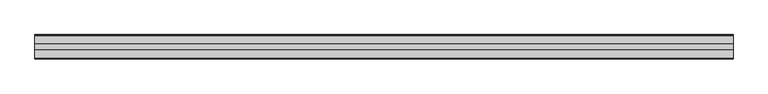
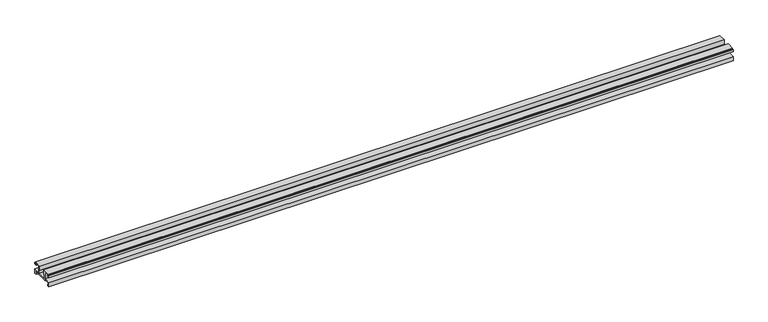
"""IFC4 building model written with IfcOpenShell, lengths in millimetres: proxy geometry, Weiku - Montante - Acoplamento vidro : Weiku - Montante - Acoplamento vidro."""

from ifc_helpers import new_model, si_unit, frame, origin, place, context, project, spatial, polyline, outline, extrude, source, transform, mapped, element, save


def generic_models_8adca15c(model_context):
    return source(origin(), model_context, "Body", "SweptSolid", [
        extrude(outline(polyline([(35.405, 5.1494), (12.495, 5.1494), (12.495, 6.8004), (2.159, 6.8004), (2.159, 2.6094), (4.0216, 2.6094), (4.0216, 0.0), (-0.0014508, 0.0), (-0.0014508, 8.79), (12.954, 8.79), (12.954, 23.3104), (4.3603, 23.3104), (4.3603, 19.204), (0.0, 19.204), (0.0, 22.8024), (0.9736, 22.8024), (0.9736, 20.3894), (3.175, 20.3894), (3.175, 23.9454), (2.3735496, 23.9454), (2.3735496, 25.3), (17.4836, 25.3), (17.4836, 16.283), (15.4516, 16.283), (15.4516, 8.8), (32.4484, 8.8), (32.4484, 16.283), (30.4164, 16.283), (30.4164, 25.3), (45.5264504, 25.3), (45.5264504, 23.9454), (44.725, 23.9454), (44.725, 20.3894), (46.9264, 20.3894), (46.9264, 22.8024), (47.9, 22.8024), (47.9, 19.204), (43.5397, 19.204), (43.5397, 23.3104), (34.946, 23.3104), (34.946, 8.79), (47.9014508, 8.79), (47.9014508, 0.0), (43.8784, 0.0), (43.8784, 2.6094), (45.741, 2.6094), (45.741, 6.8004), (35.405, 6.8004), (35.405, 5.1494)])), frame((-681.5666667, 0.0, 0.0), z_axis=(1.0, 0.0, 0.0), x_axis=(0.0, 1.0, 0.0)), (0.0, 0.0, 1.0), 1363.1333333),
    ])


if __name__ == "__main__":
    model = new_model("IFC4")
    model_context = context("Model", 3, world=origin())
    ifc_project = project(units=[si_unit("LENGTHUNIT", "METRE", prefix="MILLI")], contexts=[model_context])
    site = spatial("IfcSite", under=ifc_project)
    building = spatial("IfcBuilding", under=site)
    placement = place(None, origin())
    generic_models_shape = generic_models_8adca15c(model_context)
    element("IfcBuildingElementProxy", 1, Name="Weiku - Montante - Acoplamento vidro : Weiku - Montante - Acoplamento vidro", ObjectType="Weiku - Montante - Acoplamento vidro : Weiku - Montante - Acoplamento vidro", at=placement, inside=building, context=model_context, shape_type="MappedRepresentation", body=[
        mapped(generic_models_shape, transform((0.0, 0.0, 0.0), x_axis=(1.0, 0.0, 0.0), y_axis=(0.0, 1.0, 0.0), z_axis=(0.0, 0.0, 1.0))),
    ])
    save(model, "model.ifc")
